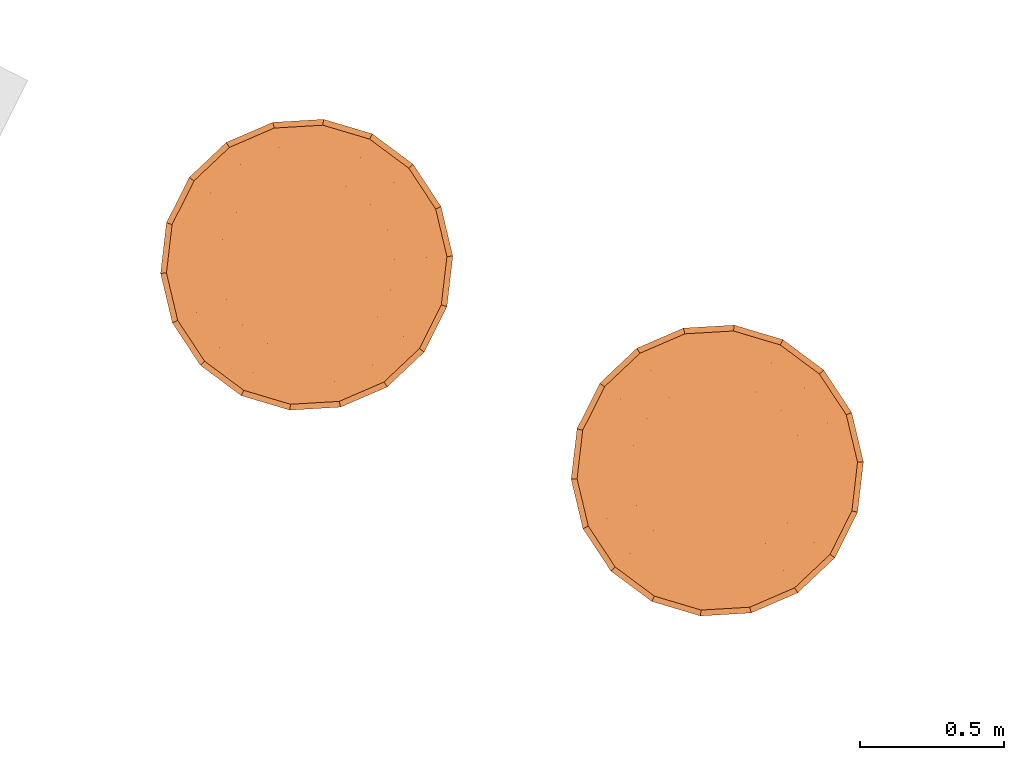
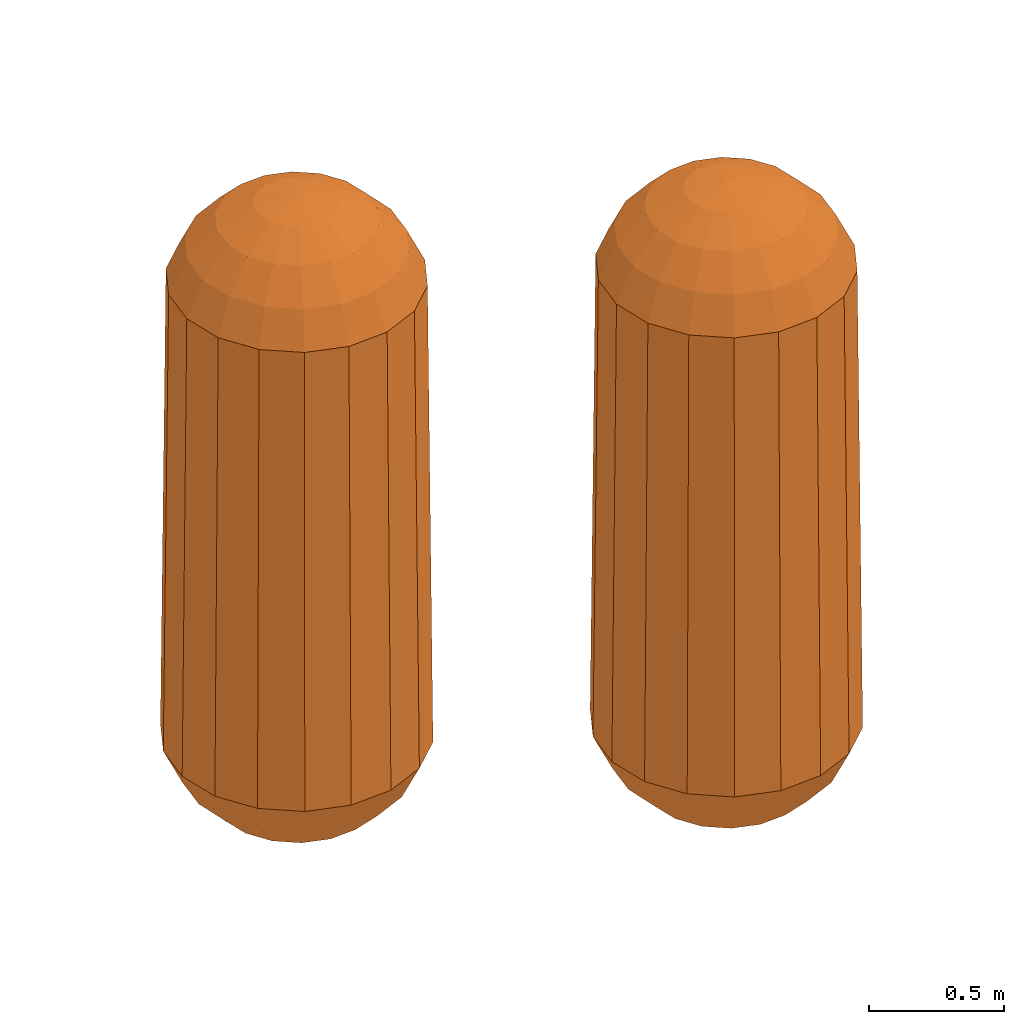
# One storey, part 146 of 152: 2 proxies.
"""IFC2X3 building model written with IfcOpenShell, lengths in metres."""

import ifcopenshell
import ifcopenshell.guid

model = None  # the IFC model being written
_history = None  # IfcOwnerHistory: only IFC2X3 demands one
_inside = {}  # id of a spatial element -> (the spatial element, [elements in it])
_under = {}  # id of a project, library or spatial element -> (it, [spatial elements below it])
_declared = {}  # id of a project -> (the project, [libraries it declares])
_typed = {}  # id of a type object -> (the type object, [elements of that type])
_made_of = {}  # id of a material, layer set ... -> (it, [elements and type objects made of it])


def new_model(schema):
    """Start an empty IFC model of exactly this schema.

    Asked for "IFC4X3", IfcOpenShell would pick the latest addendum, in which some entities
    have other attributes; the version numbers below select the first issue.
    IFC2X3 requires an IfcOwnerHistory on every rooted entity: one is made here for all.
    """
    global model, _history
    if schema == "IFC4X3":
        model = ifcopenshell.file(schema_version=(4, 3, 0, 0))
    else:
        model = ifcopenshell.file(schema=schema)
    _inside.clear()
    _under.clear()
    _declared.clear()
    _typed.clear()
    _made_of.clear()
    _history = None
    if model.schema == "IFC2X3":
        org = make("IfcOrganization", Name="unknown")
        user = make(
            "IfcPersonAndOrganization",
            ThePerson=make("IfcPerson", FamilyName="unknown"),
            TheOrganization=org,
        )
        app = make(
            "IfcApplication",
            ApplicationDeveloper=org,
            Version="unknown",
            ApplicationFullName="unknown",
            ApplicationIdentifier="unknown",
        )
        _history = make(
            "IfcOwnerHistory",
            OwningUser=user,
            OwningApplication=app,
            ChangeAction="ADDED",
            CreationDate=0,
        )
    return model


def make(cls, **values):
    """One entity of the class cls with the attributes given. An attribute that is None is left unset."""
    return model.create_entity(
        cls, **{name: value for name, value in values.items() if value is not None}
    )


def rooted(cls, **values):
    """An entity with a GlobalId (a new one), such as an element, a storey or a relation."""
    return make(cls, GlobalId=ifcopenshell.guid.new(), OwnerHistory=_history, **values)


def si_unit(unit_type, name, prefix=None):
    """IfcSIUnit, for example si_unit("LENGTHUNIT", "METRE", prefix="MILLI")."""
    return make("IfcSIUnit", UnitType=unit_type, Prefix=prefix, Name=name)


def derived_unit(unit_type, elements):
    """IfcDerivedUnit: a product of units, each with its exponent."""
    return make(
        "IfcDerivedUnit",
        Elements=[
            make("IfcDerivedUnitElement", Unit=unit, Exponent=power)
            for unit, power in elements
        ],
        UnitType=unit_type,
    )


def assignment(units):
    """IfcUnitAssignment: the units of a project."""
    return None if units is None else make("IfcUnitAssignment", Units=units)


def point(xyz):
    """IfcCartesianPoint."""
    return None if xyz is None else make("IfcCartesianPoint", Coordinates=xyz)


def direction(xyz):
    """IfcDirection."""
    return None if xyz is None else make("IfcDirection", DirectionRatios=xyz)


def frame(location, z_axis=None, x_axis=None):
    """IfcAxis2Placement3D, a coordinate frame: its origin and axes. An axis left out is left unset."""
    return make(
        "IfcAxis2Placement3D",
        Location=point(location),
        Axis=direction(z_axis),
        RefDirection=direction(x_axis),
    )


def origin():
    """The frame at (0, 0, 0) with its axes left unset."""
    return frame((0.0, 0.0, 0.0))


def place(relative_to, where):
    """IfcLocalPlacement: puts the frame where relative to a parent placement (None: the world)."""
    return make(
        "IfcLocalPlacement", PlacementRelTo=relative_to, RelativePlacement=where
    )


def context(
    kind, dimensions, precision=None, world=None, true_north=None, identifier=None
):
    """IfcGeometricRepresentationContext, for example the 3D "Model" context."""
    return make(
        "IfcGeometricRepresentationContext",
        ContextIdentifier=identifier,
        ContextType=kind,
        CoordinateSpaceDimension=dimensions,
        Precision=precision,
        WorldCoordinateSystem=world,
        TrueNorth=true_north,
    )


def subcontext(parent, identifier, kind, view, scale=None):
    """IfcGeometricRepresentationSubContext, for example "Body" below "Model"."""
    return make(
        "IfcGeometricRepresentationSubContext",
        ContextIdentifier=identifier,
        ContextType=kind,
        ParentContext=parent,
        TargetScale=scale,
        TargetView=view,
    )


def project(units=None, contexts=None):
    """IfcProject with its units and contexts."""
    return rooted(
        "IfcProject",
        Name="project",
        RepresentationContexts=contexts,
        UnitsInContext=assignment(units),
    )


def spatial(cls, under=None, at=None, **own):
    """A site, building, storey or space (cls), placed at a placement, below another one or the project."""
    s = rooted(cls, ObjectPlacement=at, **own)
    if under is not None:
        _under.setdefault(under.id(), (under, []))[1].append(s)
    return s


def faces_of(points, faces, orient=None, outer=None):
    """IfcFace entities. A face is a list of loops; a loop is a list of indices into points, from 0.

    orient and outer hold one flag for each loop. By default every Orientation is true, the
    first loop of a face is its IfcFaceOuterBound and the others are IfcFaceBound.
    """
    made = []
    for i, loops in enumerate(faces):
        bounds = []
        for j, loop in enumerate(loops):
            is_outer = j == 0 if outer is None else outer[i][j]
            bounds.append(
                make(
                    "IfcFaceOuterBound" if is_outer else "IfcFaceBound",
                    Bound=make("IfcPolyLoop", Polygon=[points[k] for k in loop]),
                    Orientation=True if orient is None else orient[i][j],
                )
            )
        made.append(make("IfcFace", Bounds=bounds))
    return made


def faceted_brep(points, faces, orient=None, outer=None, voids=None):
    """IfcFacetedBrep: a solid bounded by flat faces; with voids (closed shells), ...WithVoids."""
    shared = [point(p) for p in points]
    hull = make("IfcClosedShell", CfsFaces=faces_of(shared, faces, orient, outer))
    if voids is None:
        return make("IfcFacetedBrep", Outer=hull)
    return make(
        "IfcFacetedBrepWithVoids",
        Outer=hull,
        Voids=[
            make(cls, CfsFaces=faces_of(shared, fs, o, b)) for cls, fs, o, b in voids
        ],
    )


def shape(context_of_items, identifier, shape_type, items):
    """IfcShapeRepresentation: the items that make up one representation, for example the "Body"."""
    return make(
        "IfcShapeRepresentation",
        ContextOfItems=context_of_items,
        RepresentationIdentifier=identifier,
        RepresentationType=shape_type,
        Items=items,
    )


def source(mapping_origin, context_of_items, identifier, shape_type, items):
    """IfcRepresentationMap: a shape defined once, which mapped items show again and again."""
    return make(
        "IfcRepresentationMap",
        MappingOrigin=mapping_origin,
        MappedRepresentation=shape(context_of_items, identifier, shape_type, items),
    )


def transform(
    local_origin,
    x_axis=None,
    y_axis=None,
    z_axis=None,
    scale=None,
    scale2=None,
    scale3=None,
    uniform=True,
):
    """IfcCartesianTransformationOperator3D, or its non-uniform kind. x_axis, y_axis, z_axis: its Axis1, 2, 3."""
    if uniform:
        return make(
            "IfcCartesianTransformationOperator3D",
            Axis1=direction(x_axis),
            Axis2=direction(y_axis),
            LocalOrigin=point(local_origin),
            Scale=scale,
            Axis3=direction(z_axis),
        )
    return make(
        "IfcCartesianTransformationOperator3DnonUniform",
        Axis1=direction(x_axis),
        Axis2=direction(y_axis),
        LocalOrigin=point(local_origin),
        Scale=scale,
        Axis3=direction(z_axis),
        Scale2=scale2,
        Scale3=scale3,
    )


def mapped(mapping_source, mapping_target):
    """IfcMappedItem: shows the shape of a source again, moved by a transform."""
    return make(
        "IfcMappedItem", MappingSource=mapping_source, MappingTarget=mapping_target
    )


def material(Name=None, Category=None):
    """IfcMaterial."""
    return make("IfcMaterial", Name=Name, Category=Category)


def made_of(thing, what):
    """Note that an element or type object is made of a material, layer set ...; save() writes the relation."""
    if what is not None:
        _made_of.setdefault(what.id(), (what, []))[1].append(thing)
    return thing


def type_object(cls, material=None, **own):
    """A type object (cls), such as IfcWallType, which elements share."""
    return made_of(rooted(cls, **own), material)


def type_shapes(of_type, sources):
    """Give a type object the sources (RepresentationMaps) that its elements show as mapped items."""
    of_type.RepresentationMaps = sources


def element(
    cls,
    number,
    at=None,
    inside=None,
    cuts=None,
    type_object=None,
    material=None,
    context=None,
    identifier="Body",
    shape_type=None,
    held_by="IfcProductDefinitionShape",
    body=None,
    shapes=None,
    **own,
):
    """One element of the class cls, such as IfcWall. Its Tag is "e" and its number.

    at: its placement. inside: the storey or other place that contains it. cuts: it is an
    opening in that element (IfcRelVoidsElement). A single representation is given by context,
    identifier, shape_type and body (its items); several are given by shapes. held_by: the class
    of the entity that holds the representations. save() writes the other relations.
    """
    e = rooted(cls, Tag="e%d" % number, ObjectPlacement=at, **own)
    if body is not None:
        shapes = [shape(context, identifier, shape_type, body)]
    if shapes is not None:
        e.Representation = make(held_by, Representations=shapes)
    if inside is not None:
        _inside.setdefault(inside.id(), (inside, []))[1].append(e)
    if cuts is not None:
        rooted(
            "IfcRelVoidsElement", RelatingBuildingElement=cuts, RelatedOpeningElement=e
        )
    if type_object is not None:
        _typed.setdefault(type_object.id(), (type_object, []))[1].append(e)
    return made_of(e, material)


def aggregate(whole, parts):
    """IfcRelAggregates: a whole, such as a stair, and the parts it consists of."""
    return rooted("IfcRelAggregates", RelatingObject=whole, RelatedObjects=parts)


def save(model, path):
    """Write the relations noted so far, then the file.

    IfcRelAggregates (storeys below a building ...), IfcRelContainedInSpatialStructure (elements
    in a storey), IfcRelDefinesByType, IfcRelAssociatesMaterial and IfcRelDeclares: one each for
    every whole, place, type object, material and project.
    """
    for whole, parts in _under.values():
        aggregate(whole, parts)
    for where, things in _inside.values():
        rooted(
            "IfcRelContainedInSpatialStructure",
            RelatedElements=things,
            RelatingStructure=where,
        )
    for kind, things in _typed.values():
        rooted("IfcRelDefinesByType", RelatedObjects=things, RelatingType=kind)
    for what, things in _made_of.values():
        rooted("IfcRelAssociatesMaterial", RelatedObjects=things, RelatingMaterial=what)
    for by, libraries in _declared.values():
        rooted("IfcRelDeclares", RelatingContext=by, RelatedDefinitions=libraries)
    model.write(path)


model = new_model("IFC2X3")

# Units and contexts
model_context = context("Model", 3, precision=5.2338327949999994e-05, world=origin(), true_north=direction((0.0, 1.0)))
body_context = subcontext(model_context, "Body", "Model", "MODEL_VIEW")
ifc_project = project(units=[si_unit("LENGTHUNIT", "METRE"), si_unit("AREAUNIT", "SQUARE_METRE"), si_unit("VOLUMEUNIT", "CUBIC_METRE"), si_unit("MASSUNIT", "GRAM", prefix="KILO"), si_unit("PLANEANGLEUNIT", "RADIAN"), derived_unit("THERMALTRANSMITTANCEUNIT", [(si_unit("MASSUNIT", "GRAM", prefix="KILO"), 1), (si_unit("THERMODYNAMICTEMPERATUREUNIT", "KELVIN"), -1), (si_unit("TIMEUNIT", "SECOND"), -3)])], contexts=[model_context])

# Site, building, storey
site_placement = place(None, frame((0.0, 0.0, 0.0), z_axis=(0.0, 0.0, 1.0), x_axis=(0.8939966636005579, -0.4480736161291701, 0.0)))
site = spatial("IfcSite", under=ifc_project, at=site_placement, Name="Default", CompositionType="ELEMENT")
building_placement = place(site_placement, origin())
building = spatial("IfcBuilding", under=site, at=building_placement, CompositionType="ELEMENT")
storey_placement = place(building_placement, frame((0.0, 0.0, 2.7499999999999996)))
storey = spatial("IfcBuildingStorey", under=building, at=storey_placement, Name="1. Obergeschoss", CompositionType="ELEMENT", Elevation=2.7499999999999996)

# Proxies
ifc_material = material(Name="IfcSurfaceStyle #270045")
building_element_proxy_type_1 = type_object("IfcBuildingElementProxyType", Name="BuildingElementProxy 18:BuildingElementProxy 18", PredefinedType="NOTDEFINED", material=ifc_material)
shared_shape_1 = source(origin(), body_context, "Body", "Brep", [
    faceted_brep([(12.649356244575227, 11.29798136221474, 5.735), (12.649356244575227, 11.458488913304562, 5.708976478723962), (12.594459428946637, 11.448809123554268, 5.70897647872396), (12.54618397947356, 11.420937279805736, 5.708976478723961), (12.51035262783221, 11.378235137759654, 5.708976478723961), (12.49128716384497, 11.325853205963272, 5.708976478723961), (12.491287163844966, 11.270109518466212, 5.70897647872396), (12.510352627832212, 11.217727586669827, 5.708976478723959), (12.54618397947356, 11.175025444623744, 5.70897647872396), (12.594459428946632, 11.147153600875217, 5.708976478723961), (12.649356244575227, 11.137473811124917, 5.708976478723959), (12.70425306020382, 11.147153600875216, 5.708976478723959), (12.752528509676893, 11.175025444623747, 5.70897647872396), (12.788359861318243, 11.21772758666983, 5.70897647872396), (12.807425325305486, 11.270109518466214, 5.708976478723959), (12.807425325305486, 11.32585320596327, 5.708976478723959), (12.788359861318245, 11.378235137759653, 5.70897647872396), (12.752528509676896, 11.420937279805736, 5.70897647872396), (12.70425306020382, 11.448809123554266, 5.708976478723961), (12.649356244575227, 11.602551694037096, 5.633572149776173), (12.545187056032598, 11.58418385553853, 5.633572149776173), (12.453582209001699, 11.531295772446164, 5.633572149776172), (12.385590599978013, 11.450266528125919, 5.633572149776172), (12.349413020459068, 11.35086944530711, 5.633572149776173), (12.349413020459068, 11.245093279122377, 5.633572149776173), (12.385590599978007, 11.145696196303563, 5.633572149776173), (12.453582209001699, 11.064666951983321, 5.633572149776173), (12.545187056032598, 11.011778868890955, 5.633572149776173), (12.649356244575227, 10.993411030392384, 5.633572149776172), (12.753525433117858, 11.011778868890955, 5.633572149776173), (12.845130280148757, 11.06466695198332, 5.633572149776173), (12.913121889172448, 11.145696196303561, 5.633572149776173), (12.949299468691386, 11.245093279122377, 5.633572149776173), (12.949299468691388, 11.350869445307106, 5.633572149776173), (12.913121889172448, 11.450266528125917, 5.633572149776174), (12.845130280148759, 11.531295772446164, 5.633572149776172), (12.75352543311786, 11.58418385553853, 5.633572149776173), (12.649356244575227, 11.715409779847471, 5.516512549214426), (12.506587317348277, 11.690235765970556, 5.5165125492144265), (12.381038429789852, 11.617750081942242, 5.5165125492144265), (12.287852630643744, 11.506695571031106, 5.516512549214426), (12.238269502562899, 11.370467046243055, 5.516512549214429), (12.2382695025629, 11.22549567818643, 5.5165125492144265), (12.287852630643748, 11.089267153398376, 5.516512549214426), (12.38103842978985, 10.978212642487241, 5.516512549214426), (12.506587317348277, 10.905726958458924, 5.516512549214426), (12.649356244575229, 10.880552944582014, 5.516512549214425), (12.792125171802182, 10.905726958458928, 5.516512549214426), (12.917674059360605, 10.978212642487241, 5.5165125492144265), (13.01085985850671, 11.089267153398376, 5.516512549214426), (13.060442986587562, 11.225495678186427, 5.516512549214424), (13.060442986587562, 11.370467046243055, 5.516512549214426), (13.010859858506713, 11.506695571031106, 5.5165125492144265), (12.917674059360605, 11.617750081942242, 5.5165125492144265), (12.792125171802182, 11.690235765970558, 5.5165125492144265), (12.64935624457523, 11.785500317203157, 5.369790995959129), (12.482614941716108, 11.756099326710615, 5.369790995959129), (12.335985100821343, 11.671442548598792, 5.3697909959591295), (12.227152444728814, 11.541740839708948, 5.369790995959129), (12.169243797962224, 11.382638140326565, 5.3697909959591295), (12.169243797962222, 11.213324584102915, 5.369790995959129), (12.227152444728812, 11.05422188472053, 5.3697909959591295), (12.33598510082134, 10.924520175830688, 5.3697909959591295), (12.482614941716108, 10.839863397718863, 5.369790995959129), (12.649356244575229, 10.810462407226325, 5.3697909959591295), (12.81609754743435, 10.839863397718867, 5.3697909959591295), (12.962727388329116, 10.924520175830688, 5.369790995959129), (13.071560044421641, 11.05422188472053, 5.369790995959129), (13.129468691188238, 11.213324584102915, 5.3697909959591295), (13.129468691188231, 11.382638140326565, 5.3697909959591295), (13.071560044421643, 11.54174083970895, 5.369790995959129), (12.962727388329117, 11.671442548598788, 5.369790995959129), (12.816097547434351, 11.756099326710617, 5.369790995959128), (12.649356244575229, 11.80598136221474, 3.3092102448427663), (12.475610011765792, 11.775345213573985, 3.3092102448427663), (12.322820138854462, 11.687131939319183, 3.3092102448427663), (12.209415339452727, 11.55198136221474, 3.3092102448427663), (12.149073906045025, 11.386194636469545, 3.309210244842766), (12.149073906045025, 11.209768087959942, 3.3092102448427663), (12.20941533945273, 11.04398136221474, 3.3092102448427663), (12.322820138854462, 10.9088307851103, 3.309210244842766), (12.475610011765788, 10.820617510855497, 3.3092102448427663), (12.649356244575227, 10.789981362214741, 3.309210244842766), (12.823102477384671, 10.820617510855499, 3.309210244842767), (12.975892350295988, 10.9088307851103, 3.3092102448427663), (13.089297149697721, 11.043981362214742, 3.3092102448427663), (13.149638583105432, 11.209768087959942, 3.309210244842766), (13.14963858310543, 11.38619463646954, 3.3092102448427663), (13.089297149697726, 11.551981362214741, 3.309210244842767), (12.975892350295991, 11.687131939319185, 3.309210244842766), (12.823102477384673, 11.775345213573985, 3.3092102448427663), (12.649356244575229, 11.732946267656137, 3.1563248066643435), (12.500589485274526, 11.70671467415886, 3.156324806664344), (12.36976619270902, 11.631183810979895, 3.1563248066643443), (12.272665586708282, 11.515463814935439, 3.156324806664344), (12.22099943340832, 11.37351222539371, 3.1563248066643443), (12.22099943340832, 11.222450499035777, 3.1563248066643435), (12.272665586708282, 11.080498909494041, 3.156324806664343), (12.36976619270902, 10.964778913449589, 3.1563248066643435), (12.500589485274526, 10.889248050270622, 3.1563248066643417), (12.649356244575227, 10.863016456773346, 3.156324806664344), (12.79812300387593, 10.889248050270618, 3.156324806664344), (12.928946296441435, 10.964778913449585, 3.1563248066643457), (13.026046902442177, 11.08049890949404, 3.1563248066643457), (13.07771305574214, 11.222450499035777, 3.1563248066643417), (13.077713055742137, 11.37351222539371, 3.1563248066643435), (13.026046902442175, 11.515463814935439, 3.156324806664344), (12.928946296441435, 11.631183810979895, 3.156324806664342), (12.79812300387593, 11.706714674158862, 3.1563248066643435), (12.649356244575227, 11.61534692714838, 3.0343474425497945), (12.540810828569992, 11.596207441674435, 3.0343474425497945), (12.445357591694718, 11.541097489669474, 3.034347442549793), (12.374509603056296, 11.45666414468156, 3.0343474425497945), (12.33681217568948, 11.353091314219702, 3.0343474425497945), (12.33681217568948, 11.242871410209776, 3.0343474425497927), (12.374509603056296, 11.13929857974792, 3.0343474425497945), (12.445357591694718, 11.054865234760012, 3.0343474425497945), (12.540810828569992, 10.999755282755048, 3.034347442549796), (12.649356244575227, 10.980615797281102, 3.0343474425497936), (12.757901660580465, 10.999755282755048, 3.0343474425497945), (12.853354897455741, 11.054865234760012, 3.0343474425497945), (12.92420288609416, 11.139298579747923, 3.0343474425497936), (12.961900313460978, 11.242871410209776, 3.0343474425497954), (12.961900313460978, 11.353091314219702, 3.0343474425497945), (12.924202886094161, 11.45666414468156, 3.0343474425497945), (12.853354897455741, 11.541097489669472, 3.0343474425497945), (12.757901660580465, 11.596207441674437, 3.034347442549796), (12.649356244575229, 11.46523195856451, 2.95577531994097), (12.59215317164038, 11.455145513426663, 2.95577531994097), (12.541849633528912, 11.426102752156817, 2.9557753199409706), (12.50451297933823, 11.381606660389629, 2.9557753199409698), (12.48464656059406, 11.327024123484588, 2.9557753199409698), (12.484646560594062, 11.268938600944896, 2.9557753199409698), (12.504512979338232, 11.214356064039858, 2.95577531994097), (12.54184963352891, 11.169859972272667, 2.9557753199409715), (12.592153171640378, 11.14081721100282, 2.9557753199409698), (12.649356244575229, 11.13073076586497, 2.95577531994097), (12.706559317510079, 11.140817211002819, 2.9557753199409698), (12.756862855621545, 11.169859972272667, 2.9557753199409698), (12.794199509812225, 11.214356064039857, 2.95577531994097), (12.814065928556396, 11.268938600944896, 2.9557753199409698), (12.814065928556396, 11.327024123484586, 2.9557753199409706), (12.794199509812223, 11.381606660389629, 2.95577531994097), (12.756862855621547, 11.426102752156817, 2.95577531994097), (12.706559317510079, 11.455145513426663, 2.955775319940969), (12.649356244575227, 11.297981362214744, 2.9286585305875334)], [[[0, 1, 2]], [[0, 2, 3]], [[0, 3, 4]], [[0, 4, 5]], [[0, 5, 6]], [[0, 6, 7]], [[0, 7, 8]], [[0, 8, 9]], [[0, 9, 10]], [[0, 10, 11]], [[0, 11, 12]], [[0, 12, 13]], [[0, 13, 14]], [[0, 14, 15]], [[0, 15, 16]], [[0, 16, 17]], [[0, 17, 18]], [[0, 18, 1]], [[1, 19, 20, 2]], [[2, 20, 21, 3]], [[3, 21, 22, 4]], [[4, 22, 23, 5]], [[5, 23, 24, 6]], [[6, 24, 25, 7]], [[7, 25, 26, 8]], [[8, 26, 27, 9]], [[9, 27, 28, 10]], [[10, 28, 29, 11]], [[11, 29, 30, 12]], [[12, 30, 31, 13]], [[13, 31, 32, 14]], [[14, 32, 33, 15]], [[15, 33, 34, 16]], [[16, 34, 35, 17]], [[17, 35, 36, 18]], [[18, 36, 19, 1]], [[19, 37, 38, 20]], [[20, 38, 39, 21]], [[21, 39, 40, 22]], [[22, 40, 41, 23]], [[23, 41, 42, 24]], [[24, 42, 43, 25]], [[25, 43, 44, 26]], [[26, 44, 45, 27]], [[27, 45, 46, 28]], [[28, 46, 47, 29]], [[29, 47, 48, 30]], [[30, 48, 49, 31]], [[31, 49, 50, 32]], [[32, 50, 51, 33]], [[33, 51, 52, 34]], [[34, 52, 53, 35]], [[35, 53, 54, 36]], [[36, 54, 37, 19]], [[37, 55, 56, 38]], [[38, 56, 57, 39]], [[39, 57, 58, 40]], [[40, 58, 59, 41]], [[41, 59, 60, 42]], [[42, 60, 61, 43]], [[43, 61, 62, 44]], [[44, 62, 63, 45]], [[45, 63, 64, 46]], [[46, 64, 65, 47]], [[47, 65, 66, 48]], [[48, 66, 67, 49]], [[49, 67, 68, 50]], [[50, 68, 69, 51]], [[51, 69, 70, 52]], [[52, 70, 71, 53]], [[53, 71, 72, 54]], [[54, 72, 55, 37]], [[55, 73, 74, 56]], [[56, 74, 75, 57]], [[57, 75, 76, 58]], [[58, 76, 77, 59]], [[59, 77, 78, 60]], [[60, 78, 79, 61]], [[61, 79, 80, 62]], [[62, 80, 81, 63]], [[63, 81, 82, 64]], [[64, 82, 83, 65]], [[65, 83, 84, 66]], [[66, 84, 85, 67]], [[67, 85, 86, 68]], [[68, 86, 87, 69]], [[69, 87, 88, 70]], [[70, 88, 89, 71]], [[71, 89, 90, 72]], [[72, 90, 73, 55]], [[73, 91, 92, 74]], [[74, 92, 93, 75]], [[75, 93, 94, 76]], [[76, 94, 95, 77]], [[77, 95, 96, 78]], [[78, 96, 97, 79]], [[79, 97, 98, 80]], [[80, 98, 99, 81]], [[81, 99, 100, 82]], [[82, 100, 101, 83]], [[83, 101, 102, 84]], [[84, 102, 103, 85]], [[85, 103, 104, 86]], [[86, 104, 105, 87]], [[87, 105, 106, 88]], [[88, 106, 107, 89]], [[89, 107, 108, 90]], [[90, 108, 91, 73]], [[91, 109, 110, 92]], [[92, 110, 111, 93]], [[93, 111, 112, 94]], [[94, 112, 113, 95]], [[95, 113, 114, 96]], [[96, 114, 115, 97]], [[97, 115, 116, 98]], [[98, 116, 117, 99]], [[99, 117, 118, 100]], [[100, 118, 119, 101]], [[101, 119, 120, 102]], [[102, 120, 121, 103]], [[103, 121, 122, 104]], [[104, 122, 123, 105]], [[105, 123, 124, 106]], [[106, 124, 125, 107]], [[107, 125, 126, 108]], [[108, 126, 109, 91]], [[109, 127, 128, 110]], [[110, 128, 129, 111]], [[111, 129, 130, 112]], [[112, 130, 131, 113]], [[113, 131, 132, 114]], [[114, 132, 133, 115]], [[115, 133, 134, 116]], [[116, 134, 135, 117]], [[117, 135, 136, 118]], [[118, 136, 137, 119]], [[119, 137, 138, 120]], [[120, 138, 139, 121]], [[121, 139, 140, 122]], [[122, 140, 141, 123]], [[123, 141, 142, 124]], [[124, 142, 143, 125]], [[125, 143, 144, 126]], [[126, 144, 127, 109]], [[127, 145, 128]], [[128, 145, 129]], [[129, 145, 130]], [[130, 145, 131]], [[131, 145, 132]], [[132, 145, 133]], [[133, 145, 134]], [[134, 145, 135]], [[135, 145, 136]], [[136, 145, 137]], [[137, 145, 138]], [[138, 145, 139]], [[139, 145, 140]], [[140, 145, 141]], [[141, 145, 142]], [[142, 145, 143]], [[143, 145, 144]], [[144, 145, 127]]]),
])
type_shapes(building_element_proxy_type_1, [shared_shape_1])
proxy_1_placement = place(storey_placement, frame((0.0, 0.0, -2.7499999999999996)))
element("IfcBuildingElementProxy", 1, at=proxy_1_placement, inside=storey, type_object=building_element_proxy_type_1, material=ifc_material, Name="BuildingElementProxy 18", context=body_context, shape_type="MappedRepresentation", body=[
    mapped(shared_shape_1, transform((0.0, 0.0, 0.0), scale=1.0)),
])
building_element_proxy_type_2 = type_object("IfcBuildingElementProxyType", Name="BuildingElementProxy 19:BuildingElementProxy 19", PredefinedType="NOTDEFINED", material=ifc_material)
shared_shape_2 = source(origin(), body_context, "Body", "Brep", [
    faceted_brep([(14.243304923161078, 11.29798136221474, 5.735), (14.243304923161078, 11.458488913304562, 5.708976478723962), (14.188408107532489, 11.448809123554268, 5.70897647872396), (14.14013265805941, 11.420937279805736, 5.70897647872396), (14.104301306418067, 11.378235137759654, 5.708976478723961), (14.085235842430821, 11.325853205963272, 5.70897647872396), (14.085235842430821, 11.270109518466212, 5.708976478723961), (14.104301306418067, 11.217727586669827, 5.70897647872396), (14.14013265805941, 11.175025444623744, 5.70897647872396), (14.188408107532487, 11.147153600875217, 5.708976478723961), (14.243304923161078, 11.137473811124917, 5.70897647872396), (14.298201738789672, 11.147153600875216, 5.708976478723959), (14.346477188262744, 11.175025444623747, 5.70897647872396), (14.382308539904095, 11.21772758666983, 5.70897647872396), (14.401374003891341, 11.270109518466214, 5.70897647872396), (14.401374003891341, 11.32585320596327, 5.708976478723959), (14.3823085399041, 11.378235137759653, 5.70897647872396), (14.346477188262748, 11.420937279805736, 5.708976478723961), (14.298201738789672, 11.448809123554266, 5.708976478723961), (14.243304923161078, 11.602551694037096, 5.633572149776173), (14.139135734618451, 11.58418385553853, 5.633572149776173), (14.047530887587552, 11.531295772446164, 5.633572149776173), (13.979539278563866, 11.450266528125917, 5.633572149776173), (13.943361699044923, 11.350869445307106, 5.633572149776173), (13.943361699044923, 11.245093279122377, 5.633572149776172), (13.979539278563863, 11.145696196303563, 5.633572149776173), (14.047530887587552, 11.064666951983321, 5.633572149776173), (14.139135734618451, 11.011778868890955, 5.633572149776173), (14.243304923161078, 10.993411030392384, 5.633572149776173), (14.34747411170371, 11.011778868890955, 5.633572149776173), (14.439078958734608, 11.06466695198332, 5.633572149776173), (14.5070705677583, 11.145696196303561, 5.633572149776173), (14.543248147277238, 11.245093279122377, 5.633572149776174), (14.54324814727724, 11.350869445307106, 5.633572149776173), (14.507070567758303, 11.450266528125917, 5.633572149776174), (14.439078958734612, 11.531295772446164, 5.633572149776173), (14.347474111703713, 11.58418385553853, 5.633572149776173), (14.243304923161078, 11.715409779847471, 5.516512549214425), (14.100535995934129, 11.690235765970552, 5.5165125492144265), (13.974987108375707, 11.617750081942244, 5.5165125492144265), (13.881801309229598, 11.506695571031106, 5.516512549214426), (13.83221818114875, 11.370467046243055, 5.516512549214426), (13.832218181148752, 11.22549567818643, 5.516512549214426), (13.8818013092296, 11.089267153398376, 5.516512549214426), (13.974987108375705, 10.978212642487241, 5.516512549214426), (14.100535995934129, 10.905726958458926, 5.516512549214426), (14.243304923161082, 10.880552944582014, 5.516512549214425), (14.386073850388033, 10.905726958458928, 5.516512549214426), (14.511622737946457, 10.978212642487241, 5.5165125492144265), (14.604808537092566, 11.089267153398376, 5.516512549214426), (14.654391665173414, 11.225495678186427, 5.516512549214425), (14.654391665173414, 11.370467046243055, 5.516512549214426), (14.604808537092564, 11.506695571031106, 5.5165125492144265), (14.511622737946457, 11.617750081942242, 5.5165125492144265), (14.386073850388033, 11.690235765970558, 5.5165125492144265), (14.243304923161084, 11.785500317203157, 5.369790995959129), (14.076563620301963, 11.756099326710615, 5.369790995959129), (13.929933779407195, 11.671442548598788, 5.369790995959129), (13.821101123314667, 11.54174083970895, 5.3697909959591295), (13.763192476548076, 11.382638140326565, 5.369790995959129), (13.763192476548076, 11.213324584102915, 5.369790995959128), (13.82110112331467, 11.05422188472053, 5.369790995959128), (13.929933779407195, 10.924520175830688, 5.3697909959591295), (14.076563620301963, 10.839863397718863, 5.369790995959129), (14.243304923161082, 10.810462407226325, 5.369790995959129), (14.410046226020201, 10.839863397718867, 5.3697909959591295), (14.556676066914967, 10.924520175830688, 5.369790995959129), (14.665508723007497, 11.05422188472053, 5.3697909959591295), (14.723417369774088, 11.213324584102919, 5.369790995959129), (14.723417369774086, 11.382638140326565, 5.3697909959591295), (14.665508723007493, 11.54174083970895, 5.369790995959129), (14.556676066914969, 11.671442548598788, 5.369790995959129), (14.410046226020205, 11.756099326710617, 5.369790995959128), (14.243304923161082, 11.80598136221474, 3.3092102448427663), (14.069558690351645, 11.775345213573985, 3.3092102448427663), (13.916768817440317, 11.687131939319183, 3.3092102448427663), (13.803364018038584, 11.55198136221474, 3.3092102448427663), (13.74302258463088, 11.386194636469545, 3.309210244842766), (13.74302258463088, 11.209768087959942, 3.3092102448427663), (13.803364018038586, 11.04398136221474, 3.3092102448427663), (13.91676881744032, 10.9088307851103, 3.309210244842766), (14.06955869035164, 10.820617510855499, 3.3092102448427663), (14.243304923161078, 10.789981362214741, 3.309210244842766), (14.417051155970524, 10.820617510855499, 3.309210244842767), (14.569841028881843, 10.9088307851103, 3.3092102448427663), (14.683245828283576, 11.04398136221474, 3.3092102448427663), (14.743587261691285, 11.209768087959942, 3.309210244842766), (14.743587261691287, 11.38619463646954, 3.3092102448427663), (14.683245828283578, 11.551981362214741, 3.309210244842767), (14.569841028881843, 11.687131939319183, 3.309210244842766), (14.417051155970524, 11.775345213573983, 3.309210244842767), (14.243304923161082, 11.732946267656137, 3.1563248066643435), (14.094538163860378, 11.70671467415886, 3.156324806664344), (13.963714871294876, 11.631183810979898, 3.156324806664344), (13.866614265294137, 11.515463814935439, 3.156324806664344), (13.814948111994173, 11.37351222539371, 3.156324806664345), (13.81494811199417, 11.222450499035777, 3.1563248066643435), (13.866614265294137, 11.080498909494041, 3.1563248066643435), (13.963714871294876, 10.964778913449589, 3.1563248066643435), (14.094538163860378, 10.889248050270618, 3.1563248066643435), (14.243304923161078, 10.863016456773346, 3.156324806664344), (14.392071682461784, 10.889248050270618, 3.156324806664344), (14.522894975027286, 10.964778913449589, 3.156324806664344), (14.619995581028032, 11.08049890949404, 3.156324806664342), (14.671661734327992, 11.222450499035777, 3.156324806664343), (14.671661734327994, 11.37351222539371, 3.156324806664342), (14.61999558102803, 11.515463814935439, 3.1563248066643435), (14.522894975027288, 11.631183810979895, 3.156324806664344), (14.392071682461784, 11.70671467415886, 3.1563248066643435), (14.243304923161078, 11.615346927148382, 3.034347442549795), (14.134759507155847, 11.596207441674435, 3.034347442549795), (14.03930627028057, 11.541097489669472, 3.0343474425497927), (13.968458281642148, 11.45666414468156, 3.0343474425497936), (13.930760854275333, 11.353091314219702, 3.0343474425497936), (13.930760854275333, 11.242871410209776, 3.034347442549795), (13.968458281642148, 11.13929857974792, 3.0343474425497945), (14.03930627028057, 11.054865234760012, 3.0343474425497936), (14.134759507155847, 10.999755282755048, 3.034347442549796), (14.243304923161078, 10.980615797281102, 3.0343474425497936), (14.351850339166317, 10.999755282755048, 3.0343474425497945), (14.447303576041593, 11.054865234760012, 3.034347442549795), (14.518151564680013, 11.139298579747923, 3.0343474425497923), (14.55584899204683, 11.242871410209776, 3.0343474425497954), (14.55584899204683, 11.353091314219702, 3.0343474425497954), (14.518151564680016, 11.45666414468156, 3.034347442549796), (14.447303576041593, 11.541097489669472, 3.0343474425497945), (14.351850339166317, 11.596207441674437, 3.034347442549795), (14.243304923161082, 11.46523195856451, 2.95577531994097), (14.186101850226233, 11.455145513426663, 2.95577531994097), (14.135798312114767, 11.426102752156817, 2.9557753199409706), (14.098461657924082, 11.381606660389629, 2.9557753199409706), (14.078595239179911, 11.327024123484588, 2.9557753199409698), (14.078595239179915, 11.268938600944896, 2.9557753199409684), (14.098461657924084, 11.214356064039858, 2.95577531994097), (14.135798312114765, 11.169859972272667, 2.9557753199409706), (14.18610185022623, 11.14081721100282, 2.9557753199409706), (14.243304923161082, 11.13073076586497, 2.9557753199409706), (14.300507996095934, 11.140817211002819, 2.9557753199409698), (14.350811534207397, 11.169859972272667, 2.9557753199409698), (14.38814818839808, 11.214356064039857, 2.9557753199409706), (14.408014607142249, 11.268938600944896, 2.95577531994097), (14.40801460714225, 11.327024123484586, 2.955775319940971), (14.388148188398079, 11.381606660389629, 2.9557753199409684), (14.350811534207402, 11.426102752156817, 2.95577531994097), (14.300507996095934, 11.455145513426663, 2.955775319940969), (14.243304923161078, 11.297981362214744, 2.9286585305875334)], [[[0, 1, 2]], [[0, 2, 3]], [[0, 3, 4]], [[0, 4, 5]], [[0, 5, 6]], [[0, 6, 7]], [[0, 7, 8]], [[0, 8, 9]], [[0, 9, 10]], [[0, 10, 11]], [[0, 11, 12]], [[0, 12, 13]], [[0, 13, 14]], [[0, 14, 15]], [[0, 15, 16]], [[0, 16, 17]], [[0, 17, 18]], [[0, 18, 1]], [[1, 19, 20, 2]], [[2, 20, 21, 3]], [[3, 21, 22, 4]], [[4, 22, 23, 5]], [[5, 23, 24, 6]], [[6, 24, 25, 7]], [[7, 25, 26, 8]], [[8, 26, 27, 9]], [[9, 27, 28, 10]], [[10, 28, 29, 11]], [[11, 29, 30, 12]], [[12, 30, 31, 13]], [[13, 31, 32, 14]], [[14, 32, 33, 15]], [[15, 33, 34, 16]], [[16, 34, 35, 17]], [[17, 35, 36, 18]], [[18, 36, 19, 1]], [[19, 37, 38, 20]], [[20, 38, 39, 21]], [[21, 39, 40, 22]], [[22, 40, 41, 23]], [[23, 41, 42, 24]], [[24, 42, 43, 25]], [[25, 43, 44, 26]], [[26, 44, 45, 27]], [[27, 45, 46, 28]], [[28, 46, 47, 29]], [[29, 47, 48, 30]], [[30, 48, 49, 31]], [[31, 49, 50, 32]], [[32, 50, 51, 33]], [[33, 51, 52, 34]], [[34, 52, 53, 35]], [[35, 53, 54, 36]], [[36, 54, 37, 19]], [[37, 55, 56, 38]], [[38, 56, 57, 39]], [[39, 57, 58, 40]], [[40, 58, 59, 41]], [[41, 59, 60, 42]], [[42, 60, 61, 43]], [[43, 61, 62, 44]], [[44, 62, 63, 45]], [[45, 63, 64, 46]], [[46, 64, 65, 47]], [[47, 65, 66, 48]], [[48, 66, 67, 49]], [[49, 67, 68, 50]], [[50, 68, 69, 51]], [[51, 69, 70, 52]], [[52, 70, 71, 53]], [[53, 71, 72, 54]], [[54, 72, 55, 37]], [[55, 73, 74, 56]], [[56, 74, 75, 57]], [[57, 75, 76, 58]], [[58, 76, 77, 59]], [[59, 77, 78, 60]], [[60, 78, 79, 61]], [[61, 79, 80, 62]], [[62, 80, 81, 63]], [[63, 81, 82, 64]], [[64, 82, 83, 65]], [[65, 83, 84, 66]], [[66, 84, 85, 67]], [[67, 85, 86, 68]], [[68, 86, 87, 69]], [[69, 87, 88, 70]], [[70, 88, 89, 71]], [[71, 89, 90, 72]], [[72, 90, 73, 55]], [[73, 91, 92, 74]], [[74, 92, 93, 75]], [[75, 93, 94, 76]], [[76, 94, 95, 77]], [[77, 95, 96, 78]], [[78, 96, 97, 79]], [[79, 97, 98, 80]], [[80, 98, 99, 81]], [[81, 99, 100, 82]], [[82, 100, 101, 83]], [[83, 101, 102, 84]], [[84, 102, 103, 85]], [[85, 103, 104, 86]], [[86, 104, 105, 87]], [[87, 105, 106, 88]], [[88, 106, 107, 89]], [[89, 107, 108, 90]], [[90, 108, 91, 73]], [[91, 109, 110, 92]], [[92, 110, 111, 93]], [[93, 111, 112, 94]], [[94, 112, 113, 95]], [[95, 113, 114, 96]], [[96, 114, 115, 97]], [[97, 115, 116, 98]], [[98, 116, 117, 99]], [[99, 117, 118, 100]], [[100, 118, 119, 101]], [[101, 119, 120, 102]], [[102, 120, 121, 103]], [[103, 121, 122, 104]], [[104, 122, 123, 105]], [[105, 123, 124, 106]], [[106, 124, 125, 107]], [[107, 125, 126, 108]], [[108, 126, 109, 91]], [[109, 127, 128, 110]], [[110, 128, 129, 111]], [[111, 129, 130, 112]], [[112, 130, 131, 113]], [[113, 131, 132, 114]], [[114, 132, 133, 115]], [[115, 133, 134, 116]], [[116, 134, 135, 117]], [[117, 135, 136, 118]], [[118, 136, 137, 119]], [[119, 137, 138, 120]], [[120, 138, 139, 121]], [[121, 139, 140, 122]], [[122, 140, 141, 123]], [[123, 141, 142, 124]], [[124, 142, 143, 125]], [[125, 143, 144, 126]], [[126, 144, 127, 109]], [[127, 145, 128]], [[128, 145, 129]], [[129, 145, 130]], [[130, 145, 131]], [[131, 145, 132]], [[132, 145, 133]], [[133, 145, 134]], [[134, 145, 135]], [[135, 145, 136]], [[136, 145, 137]], [[137, 145, 138]], [[138, 145, 139]], [[139, 145, 140]], [[140, 145, 141]], [[141, 145, 142]], [[142, 145, 143]], [[143, 145, 144]], [[144, 145, 127]]]),
])
type_shapes(building_element_proxy_type_2, [shared_shape_2])
proxy_2_placement = place(storey_placement, frame((0.0, 0.0, -2.7499999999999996)))
element("IfcBuildingElementProxy", 2, at=proxy_2_placement, inside=storey, type_object=building_element_proxy_type_2, material=ifc_material, Name="BuildingElementProxy 19", context=body_context, shape_type="MappedRepresentation", body=[
    mapped(shared_shape_2, transform((0.0, 0.0, 0.0), scale=1.0)),
])

save(model, "model.ifc")
